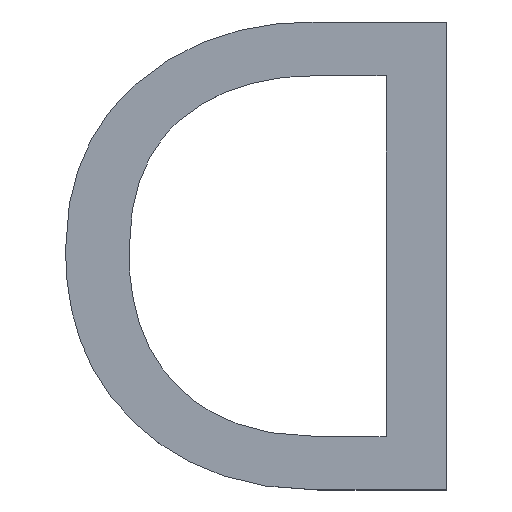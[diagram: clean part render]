
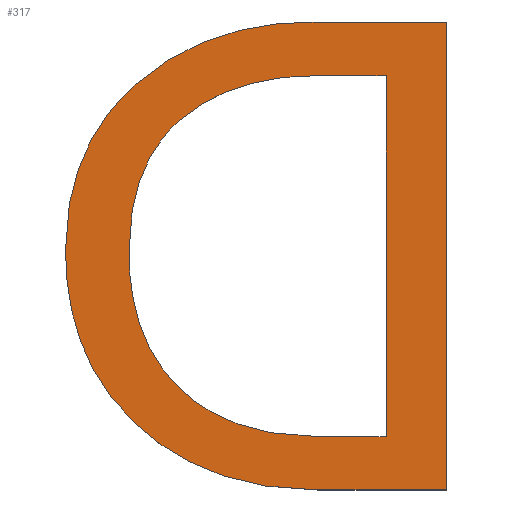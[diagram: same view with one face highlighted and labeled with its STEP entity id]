
A CAD part, top view. The second image highlights one B-rep face of the part: STEP entity #317.
In plain terms, the highlighted planar face has unit normal (0, 0, 1).
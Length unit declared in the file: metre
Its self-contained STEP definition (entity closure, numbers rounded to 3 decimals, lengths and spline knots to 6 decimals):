
#18=PLANE('',#434);
#25=LINE('',#561,#51);
#28=LINE('',#567,#54);
#31=LINE('',#573,#57);
#33=LINE('',#576,#59);
#37=LINE('',#585,#63);
#44=LINE('',#667,#70);
#51=VECTOR('',#445,1.);
#54=VECTOR('',#450,1.);
#57=VECTOR('',#455,1.);
#59=VECTOR('',#459,1.);
#63=VECTOR('',#465,1.);
#70=VECTOR('',#474,1.);
#128=ORIENTED_EDGE('',*,*,#175,.T.);
#129=ORIENTED_EDGE('',*,*,#172,.T.);
#130=ORIENTED_EDGE('',*,*,#169,.T.);
#131=ORIENTED_EDGE('',*,*,#166,.T.);
#132=ORIENTED_EDGE('',*,*,#163,.T.);
#133=ORIENTED_EDGE('',*,*,#160,.T.);
#134=ORIENTED_EDGE('',*,*,#156,.T.);
#135=ORIENTED_EDGE('',*,*,#196,.F.);
#136=ORIENTED_EDGE('',*,*,#177,.F.);
#137=ORIENTED_EDGE('',*,*,#181,.F.);
#138=ORIENTED_EDGE('',*,*,#184,.F.);
#139=ORIENTED_EDGE('',*,*,#187,.F.);
#140=ORIENTED_EDGE('',*,*,#190,.F.);
#141=ORIENTED_EDGE('',*,*,#193,.F.);
#156=EDGE_CURVE('',#198,#199,#226,.T.);
#160=EDGE_CURVE('',#202,#198,#228,.T.);
#163=EDGE_CURVE('',#204,#202,#230,.T.);
#166=EDGE_CURVE('',#206,#204,#232,.T.);
#169=EDGE_CURVE('',#208,#206,#25,.T.);
#172=EDGE_CURVE('',#210,#208,#28,.T.);
#175=EDGE_CURVE('',#199,#210,#31,.T.);
#177=EDGE_CURVE('',#212,#213,#33,.T.);
#181=EDGE_CURVE('',#216,#212,#37,.T.);
#184=EDGE_CURVE('',#218,#216,#234,.T.);
#187=EDGE_CURVE('',#220,#218,#236,.T.);
#190=EDGE_CURVE('',#222,#220,#238,.T.);
#193=EDGE_CURVE('',#224,#222,#240,.T.);
#196=EDGE_CURVE('',#213,#224,#44,.T.);
#198=VERTEX_POINT('',#493);
#199=VERTEX_POINT('',#494);
#202=VERTEX_POINT('',#515);
#204=VERTEX_POINT('',#534);
#206=VERTEX_POINT('',#553);
#208=VERTEX_POINT('',#562);
#210=VERTEX_POINT('',#568);
#212=VERTEX_POINT('',#577);
#213=VERTEX_POINT('',#578);
#216=VERTEX_POINT('',#586);
#218=VERTEX_POINT('',#602);
#220=VERTEX_POINT('',#621);
#222=VERTEX_POINT('',#640);
#224=VERTEX_POINT('',#659);
#226=B_SPLINE_CURVE_WITH_KNOTS('',3,(#489,#490,#491,#492),.UNSPECIFIED.,
 .F.,.F.,(4,4),(5.,6.),.UNSPECIFIED.);
#228=B_SPLINE_CURVE_WITH_KNOTS('',3,(#511,#512,#513,#514),.UNSPECIFIED.,
 .F.,.F.,(4,4),(4.,5.),.UNSPECIFIED.);
#230=B_SPLINE_CURVE_WITH_KNOTS('',3,(#530,#531,#532,#533),.UNSPECIFIED.,
 .F.,.F.,(4,4),(3.,4.),.UNSPECIFIED.);
#232=B_SPLINE_CURVE_WITH_KNOTS('',3,(#549,#550,#551,#552),.UNSPECIFIED.,
 .F.,.F.,(4,4),(2.,3.),.UNSPECIFIED.);
#234=B_SPLINE_CURVE_WITH_KNOTS('',3,(#598,#599,#600,#601),.UNSPECIFIED.,
 .F.,.F.,(4,4),(2.,3.),.UNSPECIFIED.);
#236=B_SPLINE_CURVE_WITH_KNOTS('',3,(#617,#618,#619,#620),.UNSPECIFIED.,
 .F.,.F.,(4,4),(3.,4.),.UNSPECIFIED.);
#238=B_SPLINE_CURVE_WITH_KNOTS('',3,(#636,#637,#638,#639),.UNSPECIFIED.,
 .F.,.F.,(4,4),(4.,5.),.UNSPECIFIED.);
#240=B_SPLINE_CURVE_WITH_KNOTS('',3,(#655,#656,#657,#658),.UNSPECIFIED.,
 .F.,.F.,(4,4),(5.,6.),.UNSPECIFIED.);
#256=EDGE_LOOP('',(#128,#129,#130,#131,#132,#133,#134));
#257=EDGE_LOOP('',(#135,#136,#137,#138,#139,#140,#141));
#274=FACE_BOUND('',#256,.T.);
#275=FACE_BOUND('',#257,.T.);
#317=ADVANCED_FACE('',(#274,#275),#18,.F.);
#434=AXIS2_PLACEMENT_3D('',#669,#476,#477);
#445=DIRECTION('',(-1.,0.,0.));
#450=DIRECTION('',(0.,-1.,0.));
#455=DIRECTION('',(1.,0.,0.));
#459=DIRECTION('',(0.,-1.,0.));
#465=DIRECTION('',(1.,0.,0.));
#474=DIRECTION('',(-1.,0.,0.));
#476=DIRECTION('',(0.,0.,-1.));
#477=DIRECTION('',(0.,1.,0.));
#489=CARTESIAN_POINT('',(-0.098186,-0.011571,0.006263));
#490=CARTESIAN_POINT('',(-0.098181,-0.011567,0.006263));
#491=CARTESIAN_POINT('',(-0.098175,-0.011565,0.006263));
#492=CARTESIAN_POINT('',(-0.098168,-0.011565,0.006263));
#493=CARTESIAN_POINT('',(-0.098186,-0.011571,0.006263));
#494=CARTESIAN_POINT('',(-0.098168,-0.011565,0.006263));
#511=CARTESIAN_POINT('',(-0.098192,-0.011588,0.006263));
#512=CARTESIAN_POINT('',(-0.098192,-0.011581,0.006263));
#513=CARTESIAN_POINT('',(-0.09819,-0.011575,0.006263));
#514=CARTESIAN_POINT('',(-0.098186,-0.011571,0.006263));
#515=CARTESIAN_POINT('',(-0.098192,-0.011588,0.006263));
#530=CARTESIAN_POINT('',(-0.098186,-0.011606,0.006263));
#531=CARTESIAN_POINT('',(-0.09819,-0.011602,0.006263));
#532=CARTESIAN_POINT('',(-0.098192,-0.011596,0.006263));
#533=CARTESIAN_POINT('',(-0.098192,-0.011588,0.006263));
#534=CARTESIAN_POINT('',(-0.098186,-0.011606,0.006263));
#549=CARTESIAN_POINT('',(-0.098168,-0.011612,0.006263));
#550=CARTESIAN_POINT('',(-0.098176,-0.011612,0.006263));
#551=CARTESIAN_POINT('',(-0.098182,-0.01161,0.006263));
#552=CARTESIAN_POINT('',(-0.098186,-0.011606,0.006263));
#553=CARTESIAN_POINT('',(-0.098168,-0.011612,0.006263));
#561=CARTESIAN_POINT('',(-0.098159,-0.011612,0.006263));
#562=CARTESIAN_POINT('',(-0.098159,-0.011612,0.006263));
#567=CARTESIAN_POINT('',(-0.098159,-0.011565,0.006263));
#568=CARTESIAN_POINT('',(-0.098159,-0.011565,0.006263));
#573=CARTESIAN_POINT('',(-0.098168,-0.011565,0.006263));
#576=CARTESIAN_POINT('',(-0.098151,-0.011619,0.006263));
#577=CARTESIAN_POINT('',(-0.098151,-0.011558,0.006263));
#578=CARTESIAN_POINT('',(-0.098151,-0.011619,0.006263));
#585=CARTESIAN_POINT('',(-0.098151,-0.011558,0.006263));
#586=CARTESIAN_POINT('',(-0.098169,-0.011558,0.006263));
#598=CARTESIAN_POINT('',(-0.098191,-0.011566,0.006263));
#599=CARTESIAN_POINT('',(-0.098185,-0.011561,0.006263));
#600=CARTESIAN_POINT('',(-0.098178,-0.011558,0.006263));
#601=CARTESIAN_POINT('',(-0.098169,-0.011558,0.006263));
#602=CARTESIAN_POINT('',(-0.098191,-0.011566,0.006263));
#617=CARTESIAN_POINT('',(-0.098201,-0.011588,0.006263));
#618=CARTESIAN_POINT('',(-0.098201,-0.011579,0.006263));
#619=CARTESIAN_POINT('',(-0.098198,-0.011572,0.006263));
#620=CARTESIAN_POINT('',(-0.098191,-0.011566,0.006263));
#621=CARTESIAN_POINT('',(-0.098201,-0.011588,0.006263));
#636=CARTESIAN_POINT('',(-0.098191,-0.011611,0.006263));
#637=CARTESIAN_POINT('',(-0.098198,-0.011605,0.006263));
#638=CARTESIAN_POINT('',(-0.098201,-0.011597,0.006263));
#639=CARTESIAN_POINT('',(-0.098201,-0.011588,0.006263));
#640=CARTESIAN_POINT('',(-0.098191,-0.011611,0.006263));
#655=CARTESIAN_POINT('',(-0.098168,-0.011619,0.006263));
#656=CARTESIAN_POINT('',(-0.098178,-0.011619,0.006263));
#657=CARTESIAN_POINT('',(-0.098185,-0.011616,0.006263));
#658=CARTESIAN_POINT('',(-0.098191,-0.011611,0.006263));
#659=CARTESIAN_POINT('',(-0.098168,-0.011619,0.006263));
#667=CARTESIAN_POINT('',(-0.098168,-0.011619,0.006263));
#669=CARTESIAN_POINT('',(-0.098181,-0.01156,0.006263));
